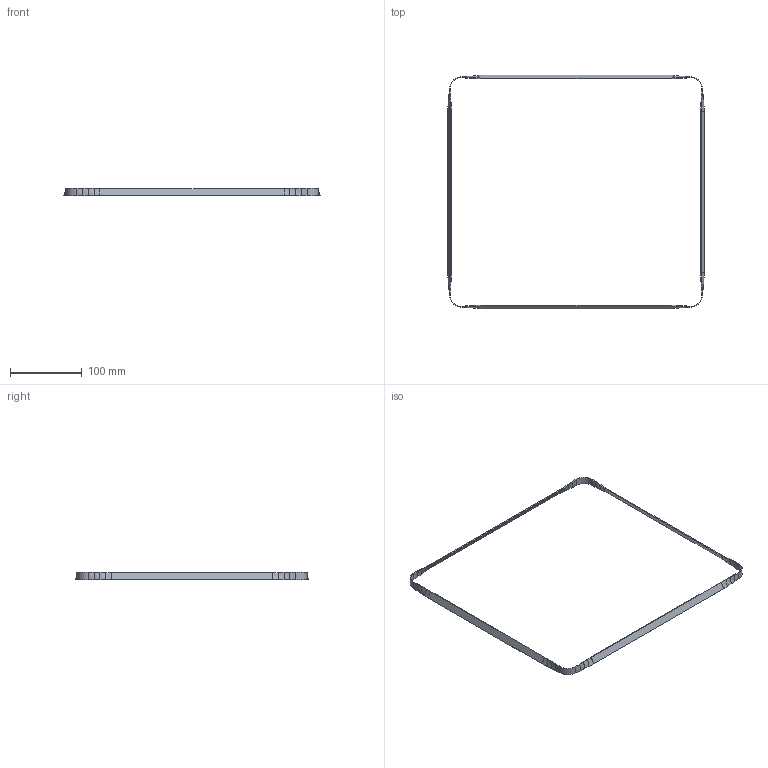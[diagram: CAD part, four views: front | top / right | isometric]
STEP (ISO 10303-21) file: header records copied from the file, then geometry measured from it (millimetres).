
FILE_DESCRIPTION(('Open CASCADE Model'),'2;1');
FILE_NAME('COMPOUND','2026-10-21T18:57:57',('Author'),('Open CASCADE'), 'Open CASCADE STEP processor 8.0','build123d','Unknown');
FILE_SCHEMA(('AUTOMOTIVE_DESIGN { 1 0 10303 214 1 1 1 1 }'));
Length unit declared in the file: millimetre
Products named in the file (42): COMPOUND; SOLID
Assembly tree (41 placements, depth 3):
  COMPOUND
    COMPOUND
      SOLID
      SOLID
      SOLID
      SOLID
      SOLID
      SOLID
      SOLID
      SOLID
      SOLID
      SOLID
      SOLID
      SOLID
      SOLID
      SOLID
      SOLID
      SOLID
      SOLID
      SOLID
      SOLID
      SOLID
      SOLID
      SOLID
      SOLID
      SOLID
      SOLID
      SOLID
      SOLID
      SOLID
      SOLID
      SOLID
      SOLID
      SOLID
      SOLID
      SOLID
      SOLID
      SOLID
      COMPOUND
      COMPOUND
      COMPOUND
      COMPOUND
Bounding box: 357.07 x 325.07 x 10.3 mm (x, y, z)
Volume: 14723.5 mm3; surface area: 30565 mm2
Topology: 40 solids, 40 shells, 240 faces, 480 edges, 320 vertices
Faces by surface type: bspline 128, plane 104, cylinder 8
Entity records: 12822 total; most frequent: CARTESIAN_POINT 2614, DIRECTION 1576, LINE 1220, VECTOR 1220, ORIENTED_EDGE 960, PCURVE 960, DEFINITIONAL_REPRESENTATION 960, EDGE_CURVE 480
